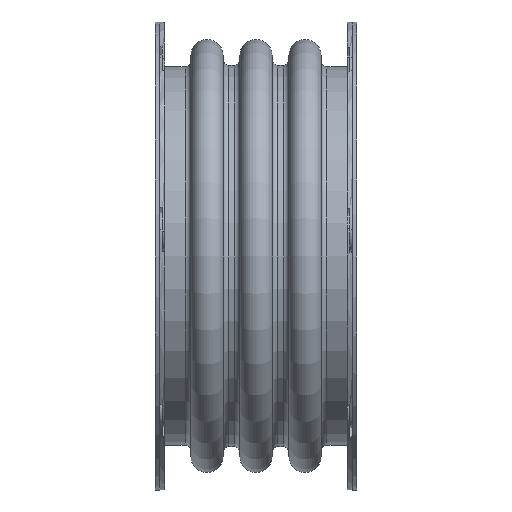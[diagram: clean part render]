
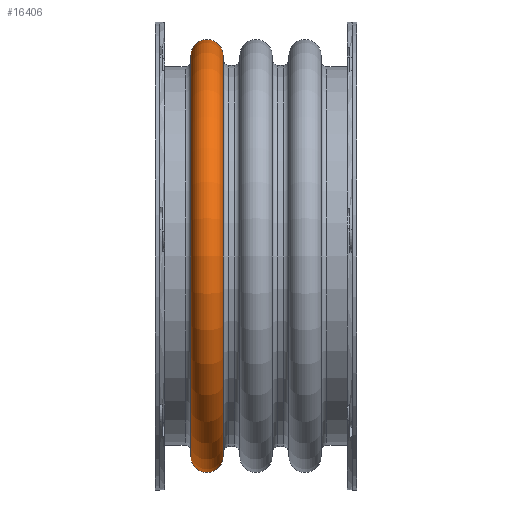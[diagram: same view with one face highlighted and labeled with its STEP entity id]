
A CAD part, front view. The second image highlights one B-rep face of the part: STEP entity #16406.
In plain terms, the highlighted toroidal (fillet/blend) face has major radius 454.025 mm and minor radius 36.513 mm.
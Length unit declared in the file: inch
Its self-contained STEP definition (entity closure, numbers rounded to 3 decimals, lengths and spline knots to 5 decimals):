
#281=FACE_BOUND('',#2805,.T.);
#1145=TOROIDAL_SURFACE('',#18095,17.875,1.4375);
#1649=FACE_OUTER_BOUND('',#2804,.T.);
#2804=EDGE_LOOP('',(#12596));
#2805=EDGE_LOOP('',(#12597));
#5772=CIRCLE('',#18094,17.92263);
#5773=CIRCLE('',#18096,17.92263);
#7284=VERTEX_POINT('',#27333);
#7285=VERTEX_POINT('',#27336);
#9206=EDGE_CURVE('',#7284,#7284,#5772,.T.);
#9207=EDGE_CURVE('',#7285,#7285,#5773,.T.);
#12596=ORIENTED_EDGE('',*,*,#9207,.F.);
#12597=ORIENTED_EDGE('',*,*,#9206,.T.);
#16406=ADVANCED_FACE('',(#1649,#281),#1145,.T.);
#18094=AXIS2_PLACEMENT_3D('',#27334,#22099,#22100);
#18095=AXIS2_PLACEMENT_3D('',#27335,#22101,#22102);
#18096=AXIS2_PLACEMENT_3D('',#27337,#22103,#22104);
#22099=DIRECTION('center_axis',(1.,0.,0.));
#22100=DIRECTION('ref_axis',(0.,0.,-1.));
#22101=DIRECTION('center_axis',(1.,0.,0.));
#22102=DIRECTION('ref_axis',(0.,0.,-1.));
#22103=DIRECTION('center_axis',(1.,0.,0.));
#22104=DIRECTION('ref_axis',(0.,0.,-1.));
#27333=CARTESIAN_POINT('',(-5.81171,17.92263,0.));
#27334=CARTESIAN_POINT('Origin',(-5.81171,0.,
0.));
#27335=CARTESIAN_POINT('Origin',(-4.375,0.,0.));
#27336=CARTESIAN_POINT('',(-2.93829,17.92263,0.));
#27337=CARTESIAN_POINT('Origin',(-2.93829,0.,
0.));
